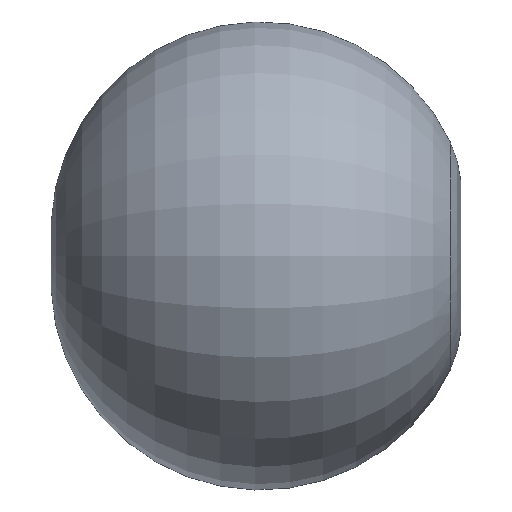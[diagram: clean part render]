
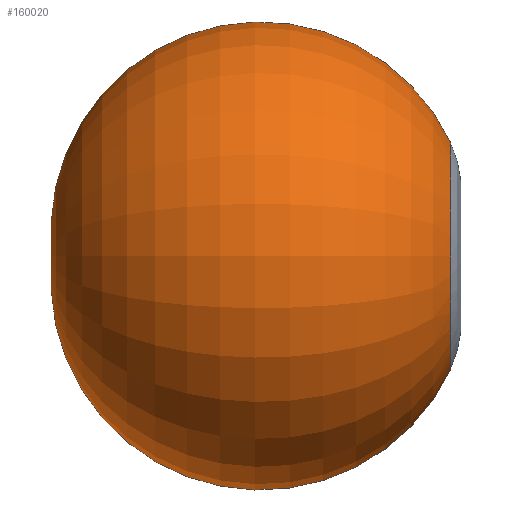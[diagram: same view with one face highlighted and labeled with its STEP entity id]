
A CAD part, left-side view. The second image highlights one B-rep face of the part: STEP entity #160020.
In plain terms, the highlighted toroidal (fillet/blend) face has major radius 150 mm and minor radius 1286.24 mm.
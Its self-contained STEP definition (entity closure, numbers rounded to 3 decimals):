
#42889 = TOROIDAL_SURFACE ( 'NONE', #42897, 150., 1286.244 ) ;
#42897 = AXIS2_PLACEMENT_3D ( 'NONE', #52130, #52116, #52136 ) ;
#50005 = CIRCLE ( 'NONE', #50012, 693.59 ) ;
#50012 = AXIS2_PLACEMENT_3D ( 'NONE', #55517, #55519, #55522 ) ;
#50259 = CIRCLE ( 'NONE', #50270, 1286.244 ) ;
#50270 = AXIS2_PLACEMENT_3D ( 'NONE', #56285, #56288, #56291 ) ;
#50273 = CIRCLE ( 'NONE', #50284, 1286.244 ) ;
#50284 = AXIS2_PLACEMENT_3D ( 'NONE', #56314, #56317, #56319 ) ;
#52116 = DIRECTION ( 'NONE',  ( 0., -1., 0. ) ) ;
#52125 = FACE_OUTER_BOUND ( 'NONE', #164233, .T. ) ;
#52130 = CARTESIAN_POINT ( 'NONE',  ( 0., 430., 0. ) ) ;
#52136 = DIRECTION ( 'NONE',  ( 0., 0., -1. ) ) ;
#55517 = CARTESIAN_POINT ( 'NONE',  ( 0., -735.733, 0. ) ) ;
#55519 = DIRECTION ( 'NONE',  ( 0., -1., 0. ) ) ;
#55522 = DIRECTION ( 'NONE',  ( 0., 0., -1. ) ) ;
#56285 = CARTESIAN_POINT ( 'NONE',  ( 0., 430., -150. ) ) ;
#56288 = DIRECTION ( 'NONE',  ( -1., 0., 0. ) ) ;
#56291 = DIRECTION ( 'NONE',  ( 0., 0., 1. ) ) ;
#56314 = CARTESIAN_POINT ( 'NONE',  ( 0., 430., 150. ) ) ;
#56317 = DIRECTION ( 'NONE',  ( 1., 0., 0. ) ) ;
#56319 = DIRECTION ( 'NONE',  ( 0., 0., -1. ) ) ;
#76673 = EDGE_CURVE ( 'NONE', #111208, #111185, #50005, .T. ) ;
#76728 = EDGE_CURVE ( 'NONE', #111789, #111185, #50259, .T. ) ;
#76730 = EDGE_CURVE ( 'NONE', #111789, #111208, #50273, .T. ) ;
#111185 = VERTEX_POINT ( 'NONE', #175256 ) ;
#111208 = VERTEX_POINT ( 'NONE', #175288 ) ;
#111789 = VERTEX_POINT ( 'NONE', #176136 ) ;
#160020 = ADVANCED_FACE ( 'Faccia1', ( #52125 ), #42889, .T. ) ;
#164064 = ORIENTED_EDGE ( 'NONE', *, *, #76673, .F. ) ;
#164065 = ORIENTED_EDGE ( 'NONE', *, *, #76728, .T. ) ;
#164066 = ORIENTED_EDGE ( 'NONE', *, *, #76730, .F. ) ;
#164233 = EDGE_LOOP ( 'NONE', ( #164066, #164065, #164064 ) ) ;
#175256 = CARTESIAN_POINT ( 'NONE',  ( 0., -735.733, -693.59 ) ) ;
#175288 = CARTESIAN_POINT ( 'NONE',  ( 0., -735.733, 693.59 ) ) ;
#176136 = CARTESIAN_POINT ( 'NONE',  ( 0., 1707.468, 0. ) ) ;
